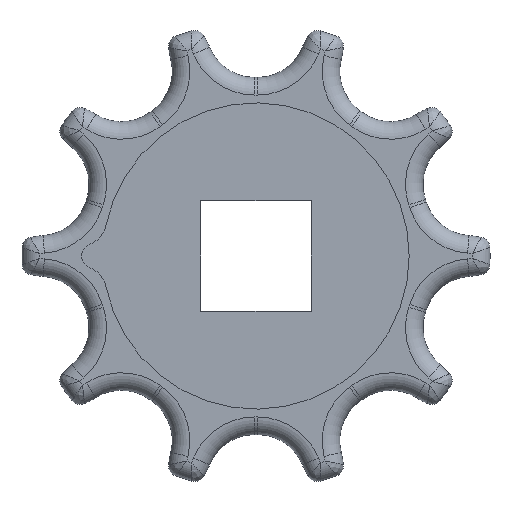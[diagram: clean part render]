
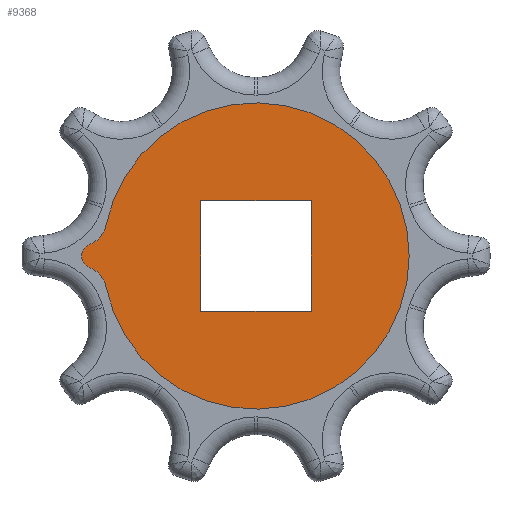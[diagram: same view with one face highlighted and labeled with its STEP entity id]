
A CAD part, left-side view. The second image highlights one B-rep face of the part: STEP entity #9368.
In plain terms, the highlighted planar face has unit normal (-1, 0, 0).
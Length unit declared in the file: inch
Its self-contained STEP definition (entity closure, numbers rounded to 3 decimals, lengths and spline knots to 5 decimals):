
#3056=CARTESIAN_POINT('',(-0.75,2.30268,0.));
#3057=DIRECTION('',(-1.,0.,0.));
#3058=DIRECTION('',(0.,0.359,0.933));
#3059=AXIS2_PLACEMENT_3D('',#3056,#3057,#3058);
#3087=CARTESIAN_POINT('',(-0.75,0.,0.));
#3088=DIRECTION('',(-1.,0.,0.));
#3089=DIRECTION('',(0.,0.98,-0.201));
#3090=AXIS2_PLACEMENT_3D('',#3087,#3088,#3089);
#3146=CARTESIAN_POINT('',(-0.75,2.50057,-0.51317));
#3147=DIRECTION('',(1.,0.,0.));
#3148=DIRECTION('',(0.,-0.36,0.933));
#3149=AXIS2_PLACEMENT_3D('',#3146,#3147,#3148);
#3151=DIRECTION('',(0.,-1.,0.));
#3152=VECTOR('',#3151,1.575);
#3153=CARTESIAN_POINT('',(-0.75,0.7875,0.7875));
#3154=LINE('',#3153,#3152);
#3155=DIRECTION('',(0.,0.,1.));
#3156=VECTOR('',#3155,1.575);
#3157=CARTESIAN_POINT('',(-0.75,0.7875,-0.7875));
#3158=LINE('',#3157,#3156);
#3159=DIRECTION('',(0.,1.,0.));
#3160=VECTOR('',#3159,1.575);
#3161=CARTESIAN_POINT('',(-0.75,-0.7875,-0.7875));
#3162=LINE('',#3161,#3160);
#3163=DIRECTION('',(0.,0.,-1.));
#3164=VECTOR('',#3163,1.575);
#3165=CARTESIAN_POINT('',(-0.75,-0.7875,0.7875));
#3166=LINE('',#3165,#3164);
#3171=CARTESIAN_POINT('',(-0.75,2.50057,0.51317));
#3172=DIRECTION('',(1.,0.,0.));
#3173=DIRECTION('',(0.,-0.98,-0.201));
#3174=AXIS2_PLACEMENT_3D('',#3171,#3172,#3173);
#3202=CARTESIAN_POINT('',(-0.75,0.7875,0.7875));
#3204=VERTEX_POINT('',#3202);
#3206=CARTESIAN_POINT('',(-0.75,-0.7875,0.7875));
#3208=VERTEX_POINT('',#3206);
#3210=CARTESIAN_POINT('',(-0.75,-0.7875,-0.7875));
#3212=VERTEX_POINT('',#3210);
#3214=CARTESIAN_POINT('',(-0.75,0.7875,-0.7875));
#3216=VERTEX_POINT('',#3214);
#3774=CARTESIAN_POINT('',(-0.75,2.13323,-0.43777));
#3776=VERTEX_POINT('',#3774);
#3779=CARTESIAN_POINT('',(-0.75,2.36561,-0.1633));
#3780=VERTEX_POINT('',#3779);
#3781=CARTESIAN_POINT('',(-0.75,2.36553,0.16333));
#3782=VERTEX_POINT('',#3781);
#3787=CARTESIAN_POINT('',(-0.75,2.13323,0.43778));
#3788=VERTEX_POINT('',#3787);
#9346=CARTESIAN_POINT('',(-0.75,0.,0.));
#9347=DIRECTION('',(1.,0.,0.));
#9348=DIRECTION('',(0.,0.,-1.));
#9349=AXIS2_PLACEMENT_3D('',#9346,#9347,#9348);
#9350=PLANE('',#9349);
#9351=ORIENTED_EDGE('',*,*,#9250,.F.);
#9353=ORIENTED_EDGE('',*,*,#9352,.F.);
#9354=ORIENTED_EDGE('',*,*,#9301,.F.);
#9355=ORIENTED_EDGE('',*,*,#9341,.F.);
#9356=EDGE_LOOP('',(#9351,#9353,#9354,#9355));
#9357=FACE_OUTER_BOUND('',#9356,.F.);
#9359=ORIENTED_EDGE('',*,*,#9358,.F.);
#9361=ORIENTED_EDGE('',*,*,#9360,.F.);
#9363=ORIENTED_EDGE('',*,*,#9362,.F.);
#9365=ORIENTED_EDGE('',*,*,#9364,.F.);
#9366=EDGE_LOOP('',(#9359,#9361,#9363,#9365));
#9367=FACE_BOUND('',#9366,.F.);
#9368=ADVANCED_FACE('',(#9357,#9367),#9350,.F.);
#3060=CIRCLE('',#3059,0.175);
#3091=CIRCLE('',#3090,2.17768);
#3150=CIRCLE('',#3149,0.375);
#3175=CIRCLE('',#3174,0.375);
#9250=EDGE_CURVE('',#3782,#3780,#3060,.T.);
#9301=EDGE_CURVE('',#3776,#3788,#3091,.T.);
#9341=EDGE_CURVE('',#3780,#3776,#3150,.T.);
#9352=EDGE_CURVE('',#3788,#3782,#3175,.T.);
#9358=EDGE_CURVE('',#3204,#3208,#3154,.T.);
#9360=EDGE_CURVE('',#3216,#3204,#3158,.T.);
#9362=EDGE_CURVE('',#3212,#3216,#3162,.T.);
#9364=EDGE_CURVE('',#3208,#3212,#3166,.T.);
